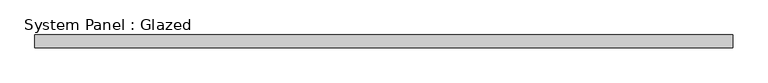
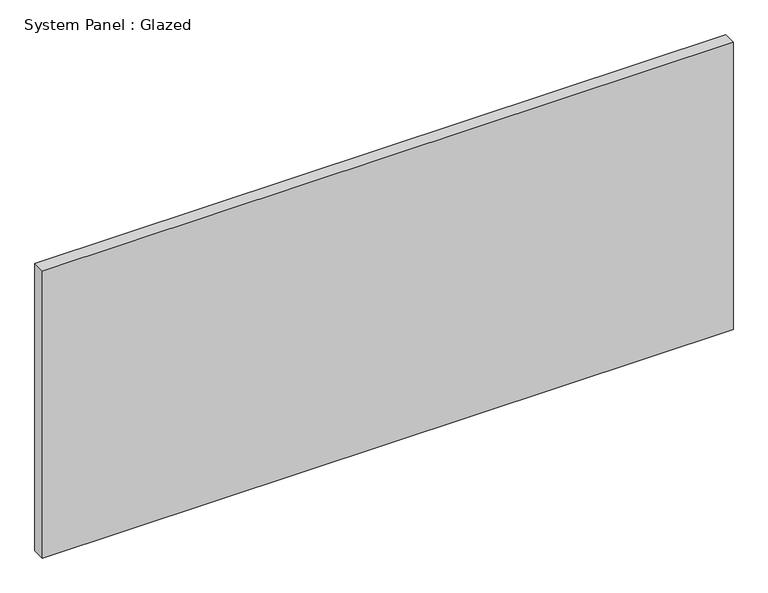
"""IFC4 building model written with IfcOpenShell, lengths in millimetres: plate geometry, System Panel : Glazed."""

import ifcopenshell
import ifcopenshell.guid

model = None  # the IFC model being written
_history = None  # IfcOwnerHistory: only IFC2X3 demands one
_inside = {}  # id of a spatial element -> (the spatial element, [elements in it])
_under = {}  # id of a project, library or spatial element -> (it, [spatial elements below it])
_declared = {}  # id of a project -> (the project, [libraries it declares])
_typed = {}  # id of a type object -> (the type object, [elements of that type])
_made_of = {}  # id of a material, layer set ... -> (it, [elements and type objects made of it])


def new_model(schema):
    """Start an empty IFC model of exactly this schema.

    Asked for "IFC4X3", IfcOpenShell would pick the latest addendum, in which some entities
    have other attributes; the version numbers below select the first issue.
    IFC2X3 requires an IfcOwnerHistory on every rooted entity: one is made here for all.
    """
    global model, _history
    if schema == "IFC4X3":
        model = ifcopenshell.file(schema_version=(4, 3, 0, 0))
    else:
        model = ifcopenshell.file(schema=schema)
    _inside.clear()
    _under.clear()
    _declared.clear()
    _typed.clear()
    _made_of.clear()
    _history = None
    if model.schema == "IFC2X3":
        org = make("IfcOrganization", Name="unknown")
        user = make(
            "IfcPersonAndOrganization",
            ThePerson=make("IfcPerson", FamilyName="unknown"),
            TheOrganization=org,
        )
        app = make(
            "IfcApplication",
            ApplicationDeveloper=org,
            Version="unknown",
            ApplicationFullName="unknown",
            ApplicationIdentifier="unknown",
        )
        _history = make(
            "IfcOwnerHistory",
            OwningUser=user,
            OwningApplication=app,
            ChangeAction="ADDED",
            CreationDate=0,
        )
    return model


def make(cls, **values):
    """One entity of the class cls with the attributes given. An attribute that is None is left unset."""
    return model.create_entity(
        cls, **{name: value for name, value in values.items() if value is not None}
    )


def rooted(cls, **values):
    """An entity with a GlobalId (a new one), such as an element, a storey or a relation."""
    return make(cls, GlobalId=ifcopenshell.guid.new(), OwnerHistory=_history, **values)


def si_unit(unit_type, name, prefix=None):
    """IfcSIUnit, for example si_unit("LENGTHUNIT", "METRE", prefix="MILLI")."""
    return make("IfcSIUnit", UnitType=unit_type, Prefix=prefix, Name=name)


def assignment(units):
    """IfcUnitAssignment: the units of a project."""
    return None if units is None else make("IfcUnitAssignment", Units=units)


def point(xyz):
    """IfcCartesianPoint."""
    return None if xyz is None else make("IfcCartesianPoint", Coordinates=xyz)


def direction(xyz):
    """IfcDirection."""
    return None if xyz is None else make("IfcDirection", DirectionRatios=xyz)


def frame(location, z_axis=None, x_axis=None):
    """IfcAxis2Placement3D, a coordinate frame: its origin and axes. An axis left out is left unset."""
    return make(
        "IfcAxis2Placement3D",
        Location=point(location),
        Axis=direction(z_axis),
        RefDirection=direction(x_axis),
    )


def origin():
    """The frame at (0, 0, 0) with its axes left unset."""
    return frame((0.0, 0.0, 0.0))


def origin_with_axes():
    """The frame at (0, 0, 0) with the z axis (0, 0, 1) and the x axis (1, 0, 0) written out."""
    return frame((0.0, 0.0, 0.0), z_axis=(0.0, 0.0, 1.0), x_axis=(1.0, 0.0, 0.0))


def place(relative_to, where):
    """IfcLocalPlacement: puts the frame where relative to a parent placement (None: the world)."""
    return make(
        "IfcLocalPlacement", PlacementRelTo=relative_to, RelativePlacement=where
    )


def context(
    kind, dimensions, precision=None, world=None, true_north=None, identifier=None
):
    """IfcGeometricRepresentationContext, for example the 3D "Model" context."""
    return make(
        "IfcGeometricRepresentationContext",
        ContextIdentifier=identifier,
        ContextType=kind,
        CoordinateSpaceDimension=dimensions,
        Precision=precision,
        WorldCoordinateSystem=world,
        TrueNorth=true_north,
    )


def project(units=None, contexts=None):
    """IfcProject with its units and contexts."""
    return rooted(
        "IfcProject",
        Name="project",
        RepresentationContexts=contexts,
        UnitsInContext=assignment(units),
    )


def spatial(cls, under=None, at=None, **own):
    """A site, building, storey or space (cls), placed at a placement, below another one or the project."""
    s = rooted(cls, ObjectPlacement=at, **own)
    if under is not None:
        _under.setdefault(under.id(), (under, []))[1].append(s)
    return s


def polyline(points):
    """IfcPolyline through the points."""
    return make("IfcPolyline", Points=[point(p) for p in points])


def outline(outer, holes=None, kind="AREA"):
    """IfcArbitraryClosedProfileDef: a profile drawn as a closed curve; with holes, ...WithVoids."""
    if holes is None:
        return make("IfcArbitraryClosedProfileDef", ProfileType=kind, OuterCurve=outer)
    return make(
        "IfcArbitraryProfileDefWithVoids",
        ProfileType=kind,
        OuterCurve=outer,
        InnerCurves=holes,
    )


def extrude(swept, where, along, depth):
    """IfcExtrudedAreaSolid: the profile swept, set in the frame where, extruded along a direction by depth."""
    return make(
        "IfcExtrudedAreaSolid",
        SweptArea=swept,
        Position=where,
        ExtrudedDirection=direction(along),
        Depth=depth,
    )


def shape(context_of_items, identifier, shape_type, items):
    """IfcShapeRepresentation: the items that make up one representation, for example the "Body"."""
    return make(
        "IfcShapeRepresentation",
        ContextOfItems=context_of_items,
        RepresentationIdentifier=identifier,
        RepresentationType=shape_type,
        Items=items,
    )


def source(mapping_origin, context_of_items, identifier, shape_type, items):
    """IfcRepresentationMap: a shape defined once, which mapped items show again and again."""
    return make(
        "IfcRepresentationMap",
        MappingOrigin=mapping_origin,
        MappedRepresentation=shape(context_of_items, identifier, shape_type, items),
    )


def transform(
    local_origin,
    x_axis=None,
    y_axis=None,
    z_axis=None,
    scale=None,
    scale2=None,
    scale3=None,
    uniform=True,
):
    """IfcCartesianTransformationOperator3D, or its non-uniform kind. x_axis, y_axis, z_axis: its Axis1, 2, 3."""
    if uniform:
        return make(
            "IfcCartesianTransformationOperator3D",
            Axis1=direction(x_axis),
            Axis2=direction(y_axis),
            LocalOrigin=point(local_origin),
            Scale=scale,
            Axis3=direction(z_axis),
        )
    return make(
        "IfcCartesianTransformationOperator3DnonUniform",
        Axis1=direction(x_axis),
        Axis2=direction(y_axis),
        LocalOrigin=point(local_origin),
        Scale=scale,
        Axis3=direction(z_axis),
        Scale2=scale2,
        Scale3=scale3,
    )


def mapped(mapping_source, mapping_target):
    """IfcMappedItem: shows the shape of a source again, moved by a transform."""
    return make(
        "IfcMappedItem", MappingSource=mapping_source, MappingTarget=mapping_target
    )


def made_of(thing, what):
    """Note that an element or type object is made of a material, layer set ...; save() writes the relation."""
    if what is not None:
        _made_of.setdefault(what.id(), (what, []))[1].append(thing)
    return thing


def element(
    cls,
    number,
    at=None,
    inside=None,
    cuts=None,
    type_object=None,
    material=None,
    context=None,
    identifier="Body",
    shape_type=None,
    held_by="IfcProductDefinitionShape",
    body=None,
    shapes=None,
    **own,
):
    """One element of the class cls, such as IfcWall. Its Tag is "e" and its number.

    at: its placement. inside: the storey or other place that contains it. cuts: it is an
    opening in that element (IfcRelVoidsElement). A single representation is given by context,
    identifier, shape_type and body (its items); several are given by shapes. held_by: the class
    of the entity that holds the representations. save() writes the other relations.
    """
    e = rooted(cls, Tag="e%d" % number, ObjectPlacement=at, **own)
    if body is not None:
        shapes = [shape(context, identifier, shape_type, body)]
    if shapes is not None:
        e.Representation = make(held_by, Representations=shapes)
    if inside is not None:
        _inside.setdefault(inside.id(), (inside, []))[1].append(e)
    if cuts is not None:
        rooted(
            "IfcRelVoidsElement", RelatingBuildingElement=cuts, RelatedOpeningElement=e
        )
    if type_object is not None:
        _typed.setdefault(type_object.id(), (type_object, []))[1].append(e)
    return made_of(e, material)


def aggregate(whole, parts):
    """IfcRelAggregates: a whole, such as a stair, and the parts it consists of."""
    return rooted("IfcRelAggregates", RelatingObject=whole, RelatedObjects=parts)


def save(model, path):
    """Write the relations noted so far, then the file.

    IfcRelAggregates (storeys below a building ...), IfcRelContainedInSpatialStructure (elements
    in a storey), IfcRelDefinesByType, IfcRelAssociatesMaterial and IfcRelDeclares: one each for
    every whole, place, type object, material and project.
    """
    for whole, parts in _under.values():
        aggregate(whole, parts)
    for where, things in _inside.values():
        rooted(
            "IfcRelContainedInSpatialStructure",
            RelatedElements=things,
            RelatingStructure=where,
        )
    for kind, things in _typed.values():
        rooted("IfcRelDefinesByType", RelatedObjects=things, RelatingType=kind)
    for what, things in _made_of.values():
        rooted("IfcRelAssociatesMaterial", RelatedObjects=things, RelatingMaterial=what)
    for by, libraries in _declared.values():
        rooted("IfcRelDeclares", RelatingContext=by, RelatedDefinitions=libraries)
    model.write(path)


def system_panel_glazed_824c4d82(model_context):
    return source(origin(), model_context, "Body", "SweptSolid", [
        extrude(outline(polyline([(670.4166666, 24.5), (-670.4166666, 24.5), (-670.4166666, 49.5), (670.4166666, 49.5), (670.4166666, 24.5)])), origin_with_axes(), (0.0, 0.0, 1.0), 590.0),
    ])


if __name__ == "__main__":
    model = new_model("IFC4")
    model_context = context("Model", 3, world=origin())
    ifc_project = project(units=[si_unit("LENGTHUNIT", "METRE", prefix="MILLI")], contexts=[model_context])
    site = spatial("IfcSite", under=ifc_project)
    building = spatial("IfcBuilding", under=site)
    placement = place(None, origin())
    system_panel_glazed_shape = system_panel_glazed_824c4d82(model_context)
    element("IfcPlate", 1, ObjectType="System Panel : Glazed", at=placement, inside=building, context=model_context, shape_type="MappedRepresentation", body=[
        mapped(system_panel_glazed_shape, transform((0.0, 0.0, 0.0), x_axis=(1.0, 0.0, 0.0), y_axis=(0.0, 1.0, 0.0), z_axis=(0.0, 0.0, 1.0))),
    ])
    save(model, "model.ifc")
